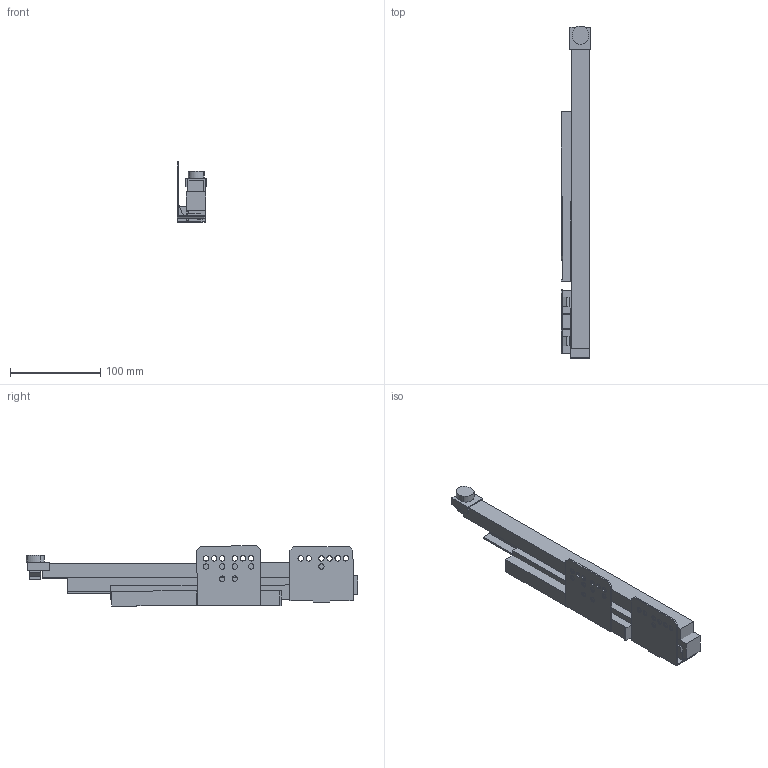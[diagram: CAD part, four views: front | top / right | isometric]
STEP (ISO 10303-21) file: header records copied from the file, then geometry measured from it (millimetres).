
FILE_DESCRIPTION (( 'STEP AP214' ), '1' );
FILE_NAME ('_IMOS Dynamic-XP VA 40kg NL350 LI Tipmatic.step', '2010-07-08T13:26:01', ( 'grass' ), ( '' ), 'SwSTEP 2.0', 'SolidWorks 2010', '' );
FILE_SCHEMA (( 'AUTOMOTIVE_DESIGN' ));
Length unit declared in the file: millimetre
Products named in the file (1): _IMOS Dynamic-XP VA 40kg NL350 LI Tipmatic
Bounding box: 33.14 x 368.02 x 66.67 mm (x, y, z)
Volume: 333299.2 mm3; surface area: 125626 mm2
Topology: 8 solids, 8 shells, 184 faces, 496 edges, 330 vertices
Faces by surface type: plane 137, cylinder 47
Entity records: 5917 total; most frequent: CARTESIAN_POINT 1011, ORIENTED_EDGE 992, DIRECTION 962, EDGE_CURVE 496, LINE 400, VECTOR 400, VERTEX_POINT 330, AXIS2_PLACEMENT_3D 281
